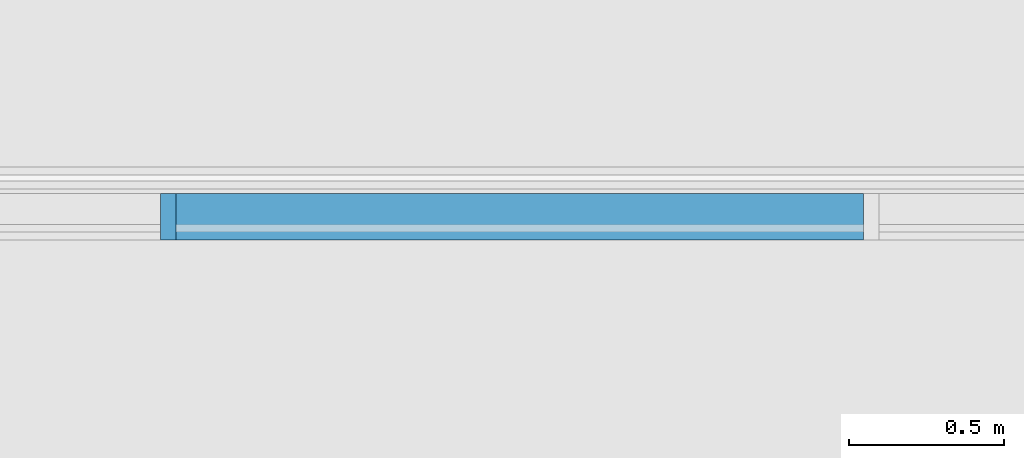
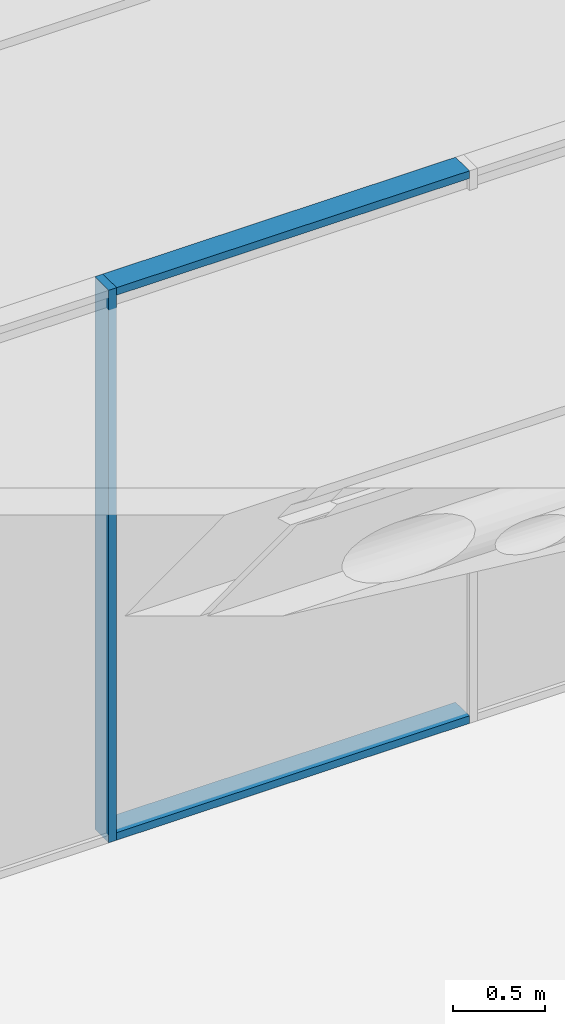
# One storey, part 11 of 25: 3 members, 1 element without a shape of its own.
"""IFC2X3 building model written with IfcOpenShell, lengths in millimetres."""

from ifc_helpers import new_model, entity, si_unit, converted_unit, derived_unit, direction, frame, origin, origin_2d_with_axis, place, context, subcontext, project, spatial, rectangle, extrude, source, transform, mapped, material, type_object, type_shapes, element, aggregate, save


model = new_model("IFC2X3")

# Units and contexts
model_context = context("Model", 3, precision=0.01, world=origin(), true_north=direction((6.12303176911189e-17, 1.0)))
body_context = subcontext(model_context, "Body", "Model", "MODEL_VIEW")
ifc_project = project(units=[si_unit("LENGTHUNIT", "METRE", prefix="MILLI"), si_unit("AREAUNIT", "SQUARE_METRE"), si_unit("VOLUMEUNIT", "CUBIC_METRE"), converted_unit("PLANEANGLEUNIT", "DEGREE", entity("IfcRatioMeasure", 0.0174532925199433), si_unit("PLANEANGLEUNIT", "RADIAN"), dimensions=[0, 0, 0, 0, 0, 0, 0]), si_unit("MASSUNIT", "GRAM", prefix="KILO"), derived_unit("MASSDENSITYUNIT", [(si_unit("MASSUNIT", "GRAM", prefix="KILO"), 1), (si_unit("LENGTHUNIT", "METRE"), -3)]), derived_unit("MOMENTOFINERTIAUNIT", [(si_unit("LENGTHUNIT", "METRE"), 4)]), si_unit("TIMEUNIT", "SECOND"), si_unit("FREQUENCYUNIT", "HERTZ"), si_unit("THERMODYNAMICTEMPERATUREUNIT", "DEGREE_CELSIUS"), derived_unit("THERMALTRANSMITTANCEUNIT", [(si_unit("MASSUNIT", "GRAM", prefix="KILO"), 1), (si_unit("THERMODYNAMICTEMPERATUREUNIT", "KELVIN"), -1), (si_unit("TIMEUNIT", "SECOND"), -3)]), derived_unit("VOLUMETRICFLOWRATEUNIT", [(si_unit("LENGTHUNIT", "METRE"), 3), (si_unit("TIMEUNIT", "SECOND"), -1)]), si_unit("ELECTRICCURRENTUNIT", "AMPERE"), si_unit("ELECTRICVOLTAGEUNIT", "VOLT"), si_unit("POWERUNIT", "WATT"), si_unit("FORCEUNIT", "NEWTON", prefix="KILO"), si_unit("ILLUMINANCEUNIT", "LUX"), si_unit("LUMINOUSFLUXUNIT", "LUMEN"), si_unit("LUMINOUSINTENSITYUNIT", "CANDELA"), derived_unit("USERDEFINED", [(si_unit("MASSUNIT", "GRAM", prefix="KILO"), -1), (si_unit("LENGTHUNIT", "METRE"), -2), (si_unit("TIMEUNIT", "SECOND"), 3), (si_unit("LUMINOUSFLUXUNIT", "LUMEN"), 1)]), derived_unit("LINEARVELOCITYUNIT", [(si_unit("LENGTHUNIT", "METRE"), 1), (si_unit("TIMEUNIT", "SECOND"), -1)]), si_unit("PRESSUREUNIT", "PASCAL"), derived_unit("USERDEFINED", [(si_unit("LENGTHUNIT", "METRE"), -2), (si_unit("MASSUNIT", "GRAM", prefix="KILO"), 1), (si_unit("TIMEUNIT", "SECOND"), -2)]), derived_unit("LINEARFORCEUNIT", [(si_unit("MASSUNIT", "GRAM", prefix="KILO"), 1), (si_unit("LENGTHUNIT", "METRE"), 1), (si_unit("TIMEUNIT", "SECOND"), -2), (si_unit("LENGTHUNIT", "METRE"), -1)]), derived_unit("PLANARFORCEUNIT", [(si_unit("MASSUNIT", "GRAM", prefix="KILO"), 1), (si_unit("LENGTHUNIT", "METRE"), 1), (si_unit("TIMEUNIT", "SECOND"), -2), (si_unit("LENGTHUNIT", "METRE"), -2)])], contexts=[model_context])

# Site, building, storey
site_placement = place(None, frame((10627.5135316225, 21939.0796949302, 0.0)))
site = spatial("IfcSite", under=ifc_project, at=site_placement, Name="Default", CompositionType="ELEMENT")
building_placement = place(site_placement, origin())
building = spatial("IfcBuilding", under=site, at=building_placement, CompositionType="ELEMENT")
storey_placement = place(building_placement, origin())
storey = spatial("IfcBuildingStorey", under=building, at=storey_placement, Name="RDC", CompositionType="ELEMENT", Elevation=0.0)

# Curtain wall, members
curtain_wall_type = type_object("IfcCurtainWallType", Name="Curtain Wall:Curtain_Wall-Empty 2", PredefinedType="NOTDEFINED")
curtain_wall_placement = place(storey_placement, origin())
curtain_wall = element("IfcCurtainWall", 1, at=curtain_wall_placement, inside=storey, type_object=curtain_wall_type, Name="Curtain Wall:Curtain_Wall-Empty 2", ObjectType="Curtain Wall:Curtain_Wall-Empty 2")
ifc_material = material(Name="Aluminium")
member_type_1 = type_object("IfcMemberType", Name="Rectangular Mullion:50x150mm", PredefinedType="MULLION", material=ifc_material)
shared_shape_1 = source(origin(), body_context, "Body", "SweptSolid", [
    extrude(rectangle(XDim=150.0, YDim=50.0, at=origin_2d_with_axis()), frame((-25.0, 0.0, -2210.0), z_axis=(0.0, 0.0, 1.0), x_axis=(0.0, -1.0, 0.0)), (0.0, 0.0, 1.0), 2210.0000003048),
])
type_shapes(member_type_1, [shared_shape_1])
member_1_placement = place(storey_placement, frame((34199.4864680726, -10774.0796949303, 3660.0), z_axis=(-1.0, 0.0, 0.0), x_axis=(0.0, 0.0, 1.0)))
member_1 = element("IfcMember", 2, at=member_1_placement, type_object=member_type_1, material=ifc_material, Name="Rectangular Mullion:50x150mm", ObjectType="Rectangular Mullion:50x150mm", context=body_context, shape_type="MappedRepresentation", body=[
    mapped(shared_shape_1, transform((0.0, 0.0, 0.0), scale=1.0)),
])
member_type_2 = type_object("IfcMemberType", Name="Rectangular Mullion:50x150mm", PredefinedType="MULLION", material=ifc_material)
shared_shape_2 = source(origin(), body_context, "Body", "SweptSolid", [
    extrude(rectangle(XDim=150.0, YDim=50.0, at=origin_2d_with_axis()), frame((-25.0, 0.0, -2210.0), z_axis=(0.0, 0.0, 1.0), x_axis=(0.0, -1.0, 0.0)), (0.0, 0.0, 1.0), 2210.0000003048),
])
type_shapes(member_type_2, [shared_shape_2])
member_2_placement = place(storey_placement, frame((36409.4864680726, -10774.0796949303, 0.0), z_axis=(1.0, 0.0, 0.0), x_axis=(0.0, 0.0, -1.0)))
member_2 = element("IfcMember", 3, at=member_2_placement, type_object=member_type_2, material=ifc_material, Name="Rectangular Mullion:50x150mm", ObjectType="Rectangular Mullion:50x150mm", context=body_context, shape_type="MappedRepresentation", body=[
    mapped(shared_shape_2, transform((0.0, 0.0, 0.0), scale=1.0)),
])
member_type_3 = type_object("IfcMemberType", Name="Rectangular Mullion:50x150mm", PredefinedType="MULLION", material=ifc_material)
shared_shape_3 = source(origin(), body_context, "Body", "SweptSolid", [
    extrude(rectangle(XDim=150.0, YDim=50.0, at=origin_2d_with_axis()), frame((0.0, 0.0, -3660.0), z_axis=(0.0, 0.0, 1.0), x_axis=(0.0, -1.0, 0.0)), (0.0, 0.0, 1.0), 3660.0),
])
type_shapes(member_type_3, [shared_shape_3])
member_3_placement = place(storey_placement, frame((34174.4864680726, -10774.0796949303, 0.0), z_axis=(0.0, 0.0, -1.0), x_axis=(-1.0, 0.0, 0.0)))
member_3 = element("IfcMember", 4, at=member_3_placement, type_object=member_type_3, material=ifc_material, Name="Rectangular Mullion:50x150mm", ObjectType="Rectangular Mullion:50x150mm", context=body_context, shape_type="MappedRepresentation", body=[
    mapped(shared_shape_3, transform((0.0, 0.0, 0.0), scale=1.0)),
])
aggregate(curtain_wall, [member_1, member_2, member_3])

save(model, "model.ifc")
